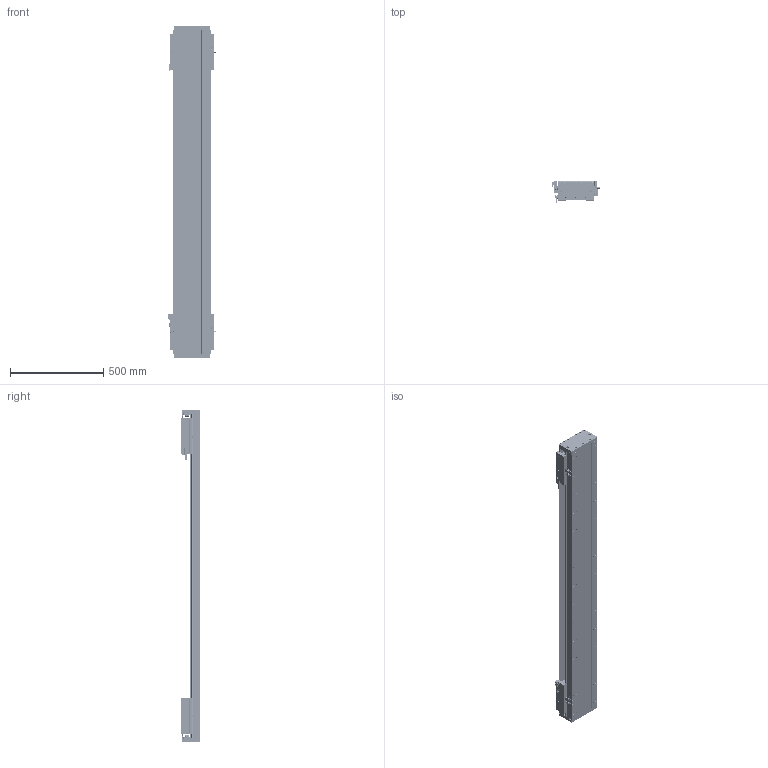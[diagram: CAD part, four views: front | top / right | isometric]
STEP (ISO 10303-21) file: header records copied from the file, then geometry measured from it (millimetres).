
FILE_DESCRIPTION (( 'STEP AP203' ), '1' );
FILE_NAME ('DA-C195-2-C2-T1280-C010-0.2 眻盄萇儂.STEP', '2025-08-14T02:03:50', ( '' ), ( '' ), 'SwSTEP 2.0', 'SolidWorks 2019', '' );
FILE_SCHEMA (( 'CONFIG_CONTROL_DESIGN' ));
Length unit declared in the file: millimetre
Products named in the file (19): CU195-C2賑輸-俋楷; DKW-KGZ-ZJ-00 中间光电开关支架; DKW168-HXJ-ZJ-00 笢潔滅袉砎蝶; DA-C195-GD-DB-H-00 傷啣; LMT黍杅芛; DA95-HXJ-00 遣喳砎蝶; DA195詩湍菜輸; DA195詩湍嶺輸; PM-T45ㄗ侂狟ㄘ; DA-C195-2-C2-T1280-C010-0.2 眻盄萇儂; PM-Y65嫖萇羲壽郪璃; DA165-GYP-00 光电感应片(默认); DKW-GYP-ZJ-00 笢潔嫖萇覜茼え; MS200 棠掑喜S315-T1740; IU-CU195-L 菁釱絳寢; IU-CU195-L-00 菁釱(L1740); 葩璃 DA95-GT-T-00; DA195詩湍裔啣; DA195詩湍郪璃
Assembly tree (37 placements, depth 3):
  DA-C195-2-C2-T1280-C010-0.2 眻盄萇儂
    DA195詩湍郪璃
      DA195詩湍菜輸  x2
      DA195詩湍裔啣
      DA195詩湍嶺輸  x2
      DA95-HXJ-00 遣喳砎蝶  x8
      DA-C195-GD-DB-H-00 傷啣  x2
    IU-CU195-L 菁釱絳寢
      IU-CU195-L-00 菁釱(L1740)
      葩璃 DA95-GT-T-00  x4
    LMT黍杅芛  x2
    MS200 棠掑喜S315-T1740
    PM-T45ㄗ侂狟ㄘ  x4
    DA165-GYP-00 光电感应片(默认)  x2
    PM-Y65嫖萇羲壽郪璃
    DKW168-HXJ-ZJ-00 笢潔滅袉砎蝶
    DKW-GYP-ZJ-00 笢潔嫖萇覜茼え
    DKW-KGZ-ZJ-00 中间光电开关支架
    CU195-C2賑輸-俋楷  x2
Bounding box: 258.2 x 115.45 x 1780 mm (x, y, z)
Volume: 12029455.8 mm3; surface area: 3414598.8 mm2
Topology: 114 solids, 242 shells, 6667 faces, 17279 edges, 10689 vertices
Faces by surface type: cylinder 2972, plane 2611, cone 916, torus 88, sphere 72, bspline 8
Entity records: 133353 total; most frequent: CARTESIAN_POINT 33487, ORIENTED_EDGE 20390, DIRECTION 20154, EDGE_CURVE 10195, AXIS2_PLACEMENT_3D 7389, VERTEX_POINT 6576, VECTOR 5376, LINE 5376
